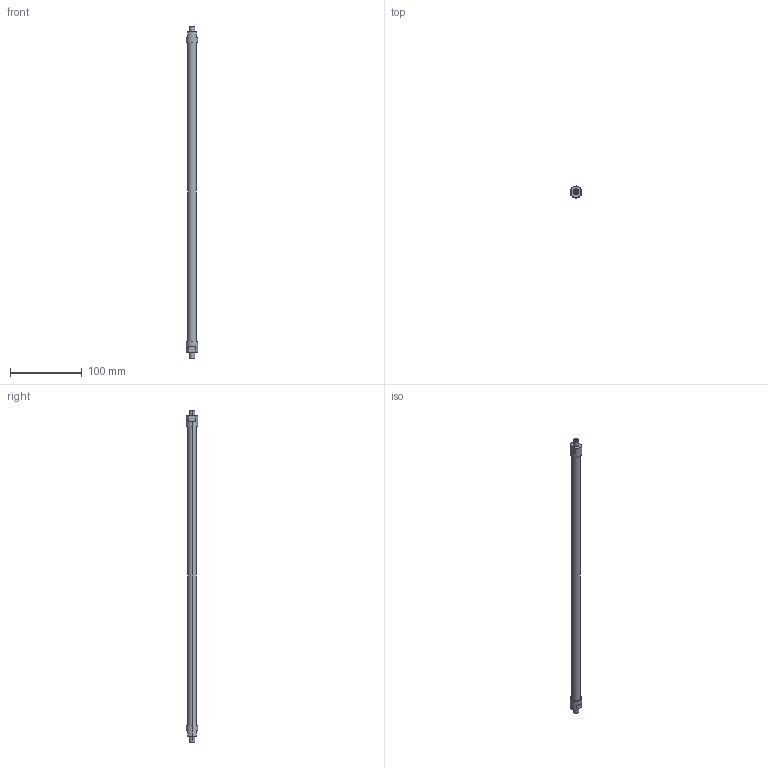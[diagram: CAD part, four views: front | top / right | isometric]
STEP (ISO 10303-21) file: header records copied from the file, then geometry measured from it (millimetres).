
FILE_DESCRIPTION(('STEP AP214'),'1');
FILE_NAME('ETT-R025G455.stp','2015-02-03T08:47:42',(' '),(' '),'Spatial InterOp 3D',' ',' ');
FILE_SCHEMA(('automotive_design'));
Length unit declared in the file: metre
Products named in the file (2): 1; 2
Bounding box: 16 x 16 x 462 mm (x, y, z)
Volume: 53209.9 mm3; surface area: 18523.3 mm2
Topology: 1 solids, 4 shells, 33 faces, 78 edges, 56 vertices
Faces by surface type: plane 17, cylinder 16
Entity records: 1292 total; most frequent: DIRECTION 192, CARTESIAN_POINT 169, ORIENTED_EDGE 144, AXIS2_PLACEMENT_3D 79, EDGE_CURVE 78, VERTEX_POINT 56, CIRCLE 44, EDGE_LOOP 40
